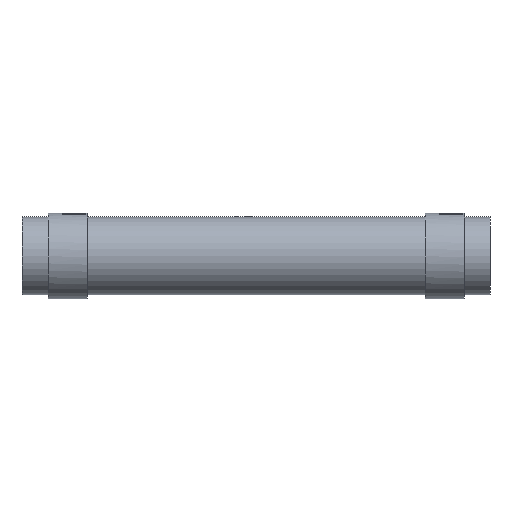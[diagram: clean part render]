
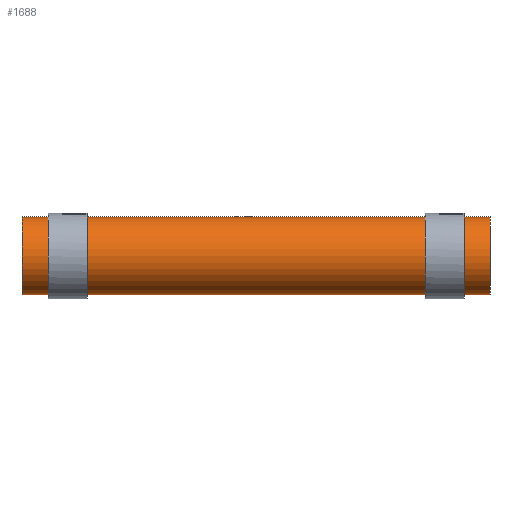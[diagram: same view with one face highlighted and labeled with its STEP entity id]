
A CAD part, front view. The second image highlights one B-rep face of the part: STEP entity #1688.
In plain terms, the highlighted cylindrical face has radius 9.525 mm (diameter 19.05 mm), a partial arc.
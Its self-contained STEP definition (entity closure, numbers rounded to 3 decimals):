
#186 = CARTESIAN_POINT ( 'NONE',  ( 57.15, 0., 0. ) ) ;
#187 = DIRECTION ( 'NONE',  ( -1., 0., 0. ) ) ;
#195 = DIRECTION ( 'NONE',  ( 0., 0., 1. ) ) ;
#210 = DIRECTION ( 'NONE',  ( -1., 0., 0. ) ) ;
#357 = CARTESIAN_POINT ( 'NONE',  ( -57.15, 0., 9.525 ) ) ;
#362 = CARTESIAN_POINT ( 'NONE',  ( -57.15, 0., -9.525 ) ) ;
#370 = CARTESIAN_POINT ( 'NONE',  ( 57.15, 0., -9.525 ) ) ;
#373 = CARTESIAN_POINT ( 'NONE',  ( 57.15, 0., 9.525 ) ) ;
#388 = CARTESIAN_POINT ( 'NONE',  ( 57.15, 0., -9.525 ) ) ;
#398 = CARTESIAN_POINT ( 'NONE',  ( -57.15, 0., 0. ) ) ;
#422 = DIRECTION ( 'NONE',  ( 0., 0., -1. ) ) ;
#513 = CARTESIAN_POINT ( 'NONE',  ( 57.15, 0., 0. ) ) ;
#514 = DIRECTION ( 'NONE',  ( 1., 0., 0. ) ) ;
#523 = CARTESIAN_POINT ( 'NONE',  ( 57.15, 0., 9.525 ) ) ;
#525 = DIRECTION ( 'NONE',  ( 0., 0., -1. ) ) ;
#527 = DIRECTION ( 'NONE',  ( 1., 0., 0. ) ) ;
#700 = DIRECTION ( 'NONE',  ( -1., 0., 0. ) ) ;
#703 = EDGE_CURVE ( 'NONE', #1364, #1357, #1084, .T. ) ;
#725 = AXIS2_PLACEMENT_3D ( 'NONE', #186, #187, #195 ) ;
#782 = AXIS2_PLACEMENT_3D ( 'NONE', #513, #527, #525 ) ;
#794 = AXIS2_PLACEMENT_3D ( 'NONE', #398, #514, #422 ) ;
#814 = EDGE_CURVE ( 'NONE', #1337, #1315, #1074, .T. ) ;
#826 = EDGE_CURVE ( 'NONE', #1315, #1357, #1067, .T. ) ;
#829 = EDGE_CURVE ( 'NONE', #1337, #1364, #1071, .T. ) ;
#1064 = VECTOR ( 'NONE', #700, 1000. ) ;
#1067 = LINE ( 'NONE', #370, #1073 ) ;
#1071 = LINE ( 'NONE', #523, #1064 ) ;
#1073 = VECTOR ( 'NONE', #210, 1000. ) ;
#1074 = CIRCLE ( 'NONE', #782, 9.525 ) ;
#1084 = CIRCLE ( 'NONE', #794, 9.525 ) ;
#1094 = CYLINDRICAL_SURFACE ( 'NONE', #725, 9.525 ) ;
#1180 = FACE_OUTER_BOUND ( 'NONE', #1266, .T. ) ;
#1266 = EDGE_LOOP ( 'NONE', ( #1491, #1492, #1493, #1494 ) ) ;
#1315 = VERTEX_POINT ( 'NONE', #388 ) ;
#1337 = VERTEX_POINT ( 'NONE', #373 ) ;
#1357 = VERTEX_POINT ( 'NONE', #362 ) ;
#1364 = VERTEX_POINT ( 'NONE', #357 ) ;
#1491 = ORIENTED_EDGE ( 'NONE', *, *, #826, .F. ) ;
#1492 = ORIENTED_EDGE ( 'NONE', *, *, #814, .F. ) ;
#1493 = ORIENTED_EDGE ( 'NONE', *, *, #829, .T. ) ;
#1494 = ORIENTED_EDGE ( 'NONE', *, *, #703, .T. ) ;
#1688 = ADVANCED_FACE ( 'NONE', ( #1180 ), #1094, .T. ) ;
